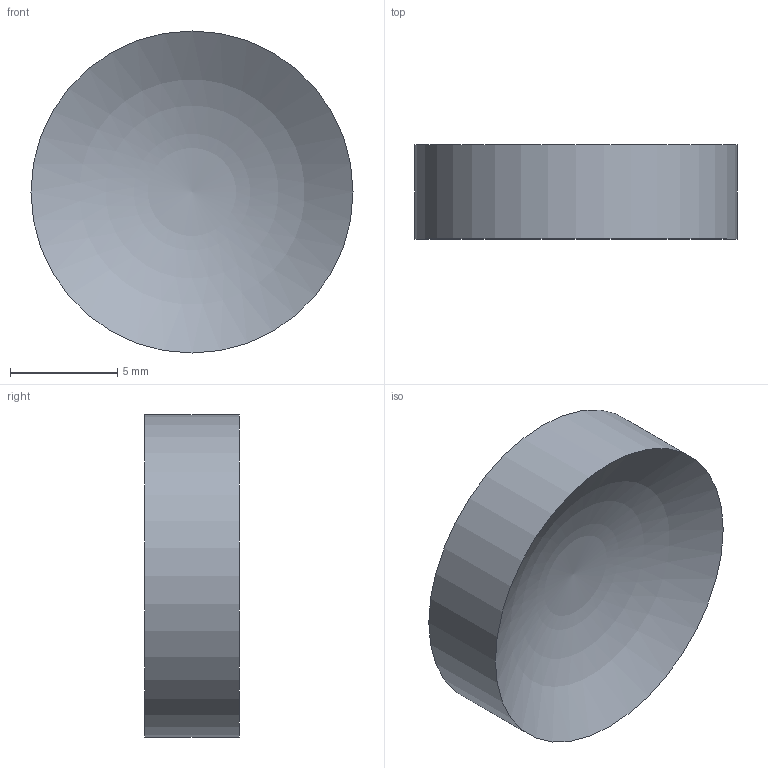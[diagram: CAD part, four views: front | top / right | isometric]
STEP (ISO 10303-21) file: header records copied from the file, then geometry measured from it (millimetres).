
FILE_DESCRIPTION((''),'2;1');
FILE_NAME('T:\Public\7_3次元データ\1図面ﾃﾞｰﾀ\7_素子\レンズ\3_球面平凹レンズ-BK7(SLB-N)\SLB-N\φ15\SLB-15-25N\SLB-15-25N.stp','2009-05-21T13:38:11',('okegawa'),(''),'Autodesk Inventor 2008','Autodesk Inventor 2008','');
FILE_SCHEMA(('AUTOMOTIVE_DESIGN { 1 0 10303 214 1 1 1 1 }'));
Length unit declared in the file: millimetre
Products named in the file (1): SLB-15-25N
Bounding box: 15 x 4.39 x 15 mm (x, y, z)
Volume: 557.2 mm3; surface area: 578 mm2
Topology: 1 solids, 1 shells, 3 faces, 3 edges, 2 vertices
Faces by surface type: bspline 1, cylinder 1, plane 1
Full cylindrical faces by diameter (mm): 15 x1
Entity records: 84 total; most frequent: CARTESIAN_POINT 16, DIRECTION 10, AXIS2_PLACEMENT_3D 5, ORIENTED_EDGE 4, EDGE_LOOP 4, FACE_OUTER_BOUND 3, ADVANCED_FACE 3, DIMENSIONAL_EXPONENTS 2
